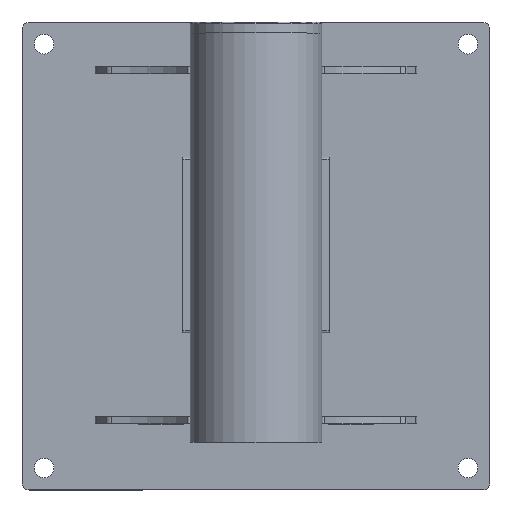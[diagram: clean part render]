
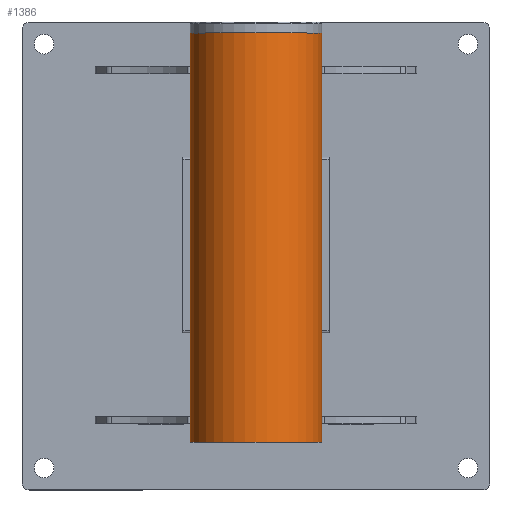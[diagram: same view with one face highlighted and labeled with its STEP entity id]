
A CAD part, top view. The second image highlights one B-rep face of the part: STEP entity #1386.
In plain terms, the highlighted cylindrical face has radius 57.15 mm (diameter 114.3 mm), a partial arc.
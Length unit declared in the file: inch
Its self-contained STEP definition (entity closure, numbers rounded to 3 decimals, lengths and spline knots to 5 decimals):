
#386 = CARTESIAN_POINT ( 'NONE',  ( 0., 0., 14. ) ) ;
#417 = ORIENTED_EDGE ( 'NONE', *, *, #2746, .T. ) ;
#860 = EDGE_CURVE ( 'NONE', #3383, #2812, #1441, .T. ) ;
#892 = CARTESIAN_POINT ( 'NONE',  ( 0., 0., 0. ) ) ;
#1094 = LINE ( 'NONE', #5418, #3819 ) ;
#1285 = CARTESIAN_POINT ( 'NONE',  ( -2.25, 0., 0. ) ) ;
#1386 = ADVANCED_FACE ( 'NONE', ( #2918 ), #5576, .T. ) ;
#1441 = LINE ( 'NONE', #1974, #1870 ) ;
#1563 = ORIENTED_EDGE ( 'NONE', *, *, #1848, .T. ) ;
#1671 = DIRECTION ( 'NONE',  ( 0., 0., -1. ) ) ;
#1848 = EDGE_CURVE ( 'NONE', #5572, #4644, #1094, .T. ) ;
#1870 = VECTOR ( 'NONE', #5031, 39.37008 ) ;
#1915 = AXIS2_PLACEMENT_3D ( 'NONE', #3521, #4461, #5244 ) ;
#1974 = CARTESIAN_POINT ( 'NONE',  ( -2.25, 0., 14. ) ) ;
#2252 = ORIENTED_EDGE ( 'NONE', *, *, #2476, .F. ) ;
#2341 = CARTESIAN_POINT ( 'NONE',  ( -2.25, 0., 14. ) ) ;
#2476 = EDGE_CURVE ( 'NONE', #5572, #3383, #4930, .T. ) ;
#2677 = DIRECTION ( 'NONE',  ( 0., 0., 1. ) ) ;
#2746 = EDGE_CURVE ( 'NONE', #4644, #2812, #3941, .T. ) ;
#2812 = VERTEX_POINT ( 'NONE', #1285 ) ;
#2918 = FACE_OUTER_BOUND ( 'NONE', #3233, .T. ) ;
#2985 = ORIENTED_EDGE ( 'NONE', *, *, #860, .F. ) ;
#3233 = EDGE_LOOP ( 'NONE', ( #2252, #1563, #417, #2985 ) ) ;
#3267 = AXIS2_PLACEMENT_3D ( 'NONE', #386, #1671, #3377 ) ;
#3377 = DIRECTION ( 'NONE',  ( -1., 0., 0. ) ) ;
#3383 = VERTEX_POINT ( 'NONE', #2341 ) ;
#3521 = CARTESIAN_POINT ( 'NONE',  ( 0., 0., 14. ) ) ;
#3819 = VECTOR ( 'NONE', #5001, 39.37008 ) ;
#3941 = CIRCLE ( 'NONE', #5549, 2.25 ) ;
#4397 = DIRECTION ( 'NONE',  ( 1., 0., 0. ) ) ;
#4461 = DIRECTION ( 'NONE',  ( 0., 0., 1. ) ) ;
#4644 = VERTEX_POINT ( 'NONE', #5482 ) ;
#4930 = CIRCLE ( 'NONE', #1915, 2.25 ) ;
#5001 = DIRECTION ( 'NONE',  ( 0., 0., -1. ) ) ;
#5031 = DIRECTION ( 'NONE',  ( 0., 0., -1. ) ) ;
#5233 = CARTESIAN_POINT ( 'NONE',  ( 2.25, 0., 14. ) ) ;
#5244 = DIRECTION ( 'NONE',  ( 1., 0., 0. ) ) ;
#5418 = CARTESIAN_POINT ( 'NONE',  ( 2.25, 0., 14. ) ) ;
#5482 = CARTESIAN_POINT ( 'NONE',  ( 2.25, 0., 0. ) ) ;
#5549 = AXIS2_PLACEMENT_3D ( 'NONE', #892, #2677, #4397 ) ;
#5572 = VERTEX_POINT ( 'NONE', #5233 ) ;
#5576 = CYLINDRICAL_SURFACE ( 'NONE', #3267, 2.25 ) ;
